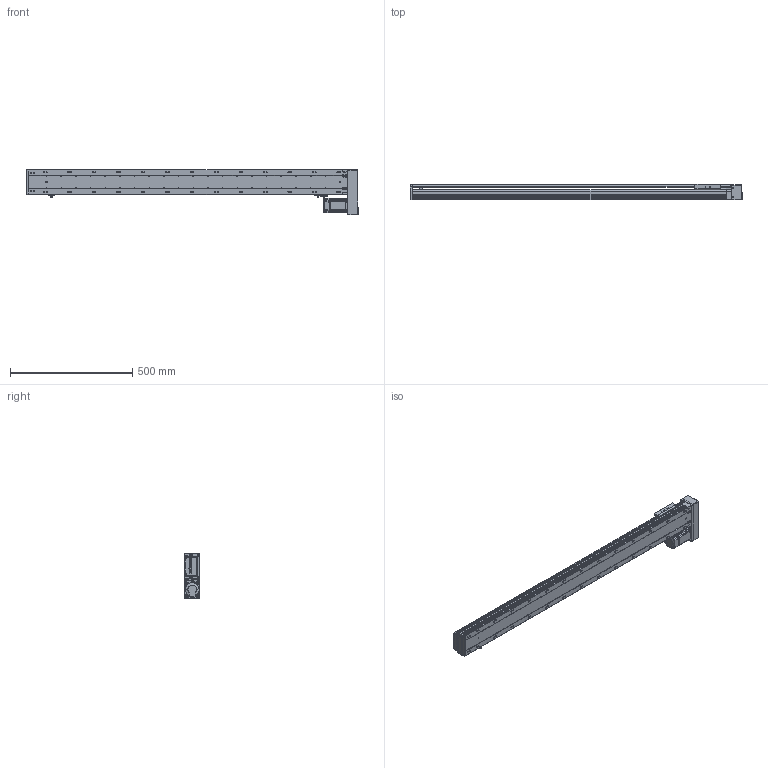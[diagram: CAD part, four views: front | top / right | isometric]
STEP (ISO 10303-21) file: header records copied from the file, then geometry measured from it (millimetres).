
FILE_DESCRIPTION (( 'STEP AP203' ), '1' );
FILE_NAME ('RY100S-L1620-950-RK(15双轨).SLDASM_1100.step', '2021-03-12T06:51:59', ( '盈信电脑' ), ( '东莞市道滘镇水果街19号' ), 'SwSTEP 2.0', 'SolidWorks 2012', '' );
FILE_SCHEMA (( 'CONFIG_CONTROL_DESIGN' ));
Length unit declared in the file: millimetre
Products named in the file (15): RY100S-L1620-950-RK(15邧寢).SLDASM_1100; RY100S-左右折电机端-(15双轨)_550; RY100S左右折电机罩（15双轨）; 侂狟200W萇儂; RY100S转折电机安装板（15双轨）; 滅袉蝶18-24; 1; RY100綴裔啣; RY100S转折电机端支撑座(15双轨); RY100S铝滑块（15双轨单滑块）; RY100俋离覜茼え; 滅袉蝶18-10; 覜茼ん672; RY100S-950-RK转折型材底座(15双轨)_1100; RY100S-950-RK转折型材上盖(15双轨)_1100
Assembly tree (17 placements, depth 4):
  RY100S-L1620-950-RK(15邧寢).SLDASM_1100
    RY100S-950-RK转折型材底座(15双轨)_1100
    RY100S-950-RK转折型材上盖(15双轨)_1100
    RY100S铝滑块（15双轨单滑块）
    覜茼ん672  x3
    滅袉蝶18-10  x2
    RY100俋离覜茼え
    RY100S转折电机端支撑座(15双轨)
    滅袉蝶18-24
    RY100綴裔啣
    RY100S-左右折电机端-(15双轨)_550
      侂狟200W萇儂
        1
      RY100S左右折电机罩（15双轨）
      RY100S转折电机安装板（15双轨）
Bounding box: 1357.5 x 65 x 186.1 mm (x, y, z)
Volume: 2611885.5 mm3; surface area: 1148181 mm2
Topology: 15 solids, 15 shells, 2575 faces, 7270 edges, 4728 vertices
Faces by surface type: plane 1308, cylinder 1042, cone 137, bspline 88
Entity records: 85742 total; most frequent: CARTESIAN_POINT 22142, ORIENTED_EDGE 13348, DIRECTION 12431, EDGE_CURVE 6674, VERTEX_POINT 4396, AXIS2_PLACEMENT_3D 4222, VECTOR 3987, LINE 3987
